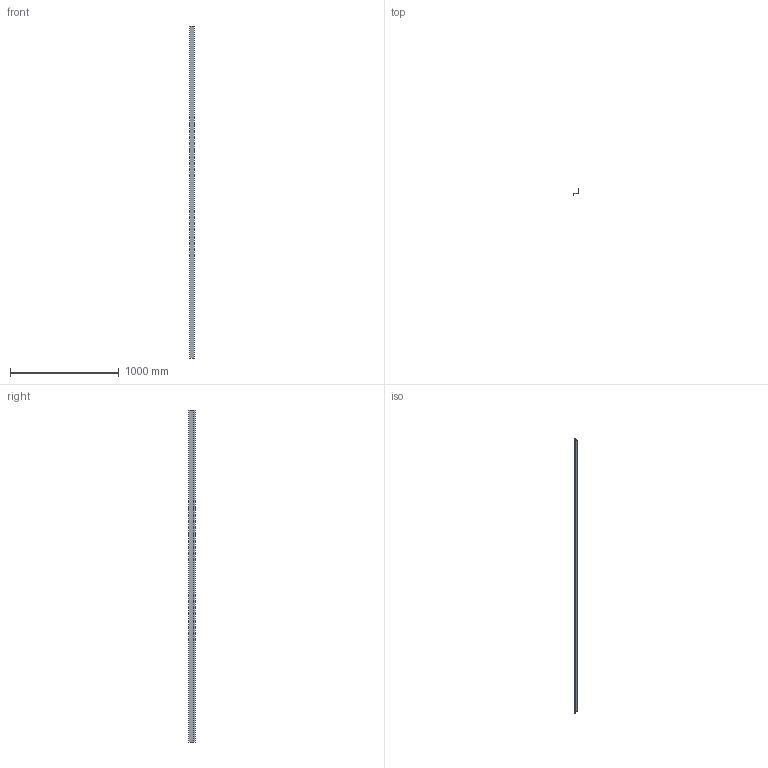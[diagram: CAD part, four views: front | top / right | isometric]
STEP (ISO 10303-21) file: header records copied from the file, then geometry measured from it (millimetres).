
FILE_DESCRIPTION(/* description */ (''),/* implementation_level */ '2;1');
FILE_NAME(/* name */ 'M12J (2-2).stp',/* time_stamp */ '2025-05-14T09:32:30-04:00',/* author */ ('gabrielle.gilbert'),/* organization */ (''),/* preprocessor_version */ 'ST-DEVELOPER v20',/* originating_system */ 'Autodesk Inventor 2025',/* authorisation */ '');
FILE_SCHEMA (('AUTOMOTIVE_DESIGN { 1 0 10303 214 3 1 1 }'));
Length unit declared in the file: inch
Products named in the file (1): M12I (2-2)
Bounding box: 45.64 x 56.41 x 3048 mm (x, y, z)
Volume: 140312.7 mm3; surface area: 620084 mm2
Topology: 1 solids, 1 shells, 14 faces, 36 edges, 24 vertices
Faces by surface type: plane 10, cylinder 4
Entity records: 473 total; most frequent: CARTESIAN_POINT 75, DIRECTION 74, ORIENTED_EDGE 72, EDGE_CURVE 36, LINE 28, VECTOR 28, VERTEX_POINT 24, AXIS2_PLACEMENT_3D 23
